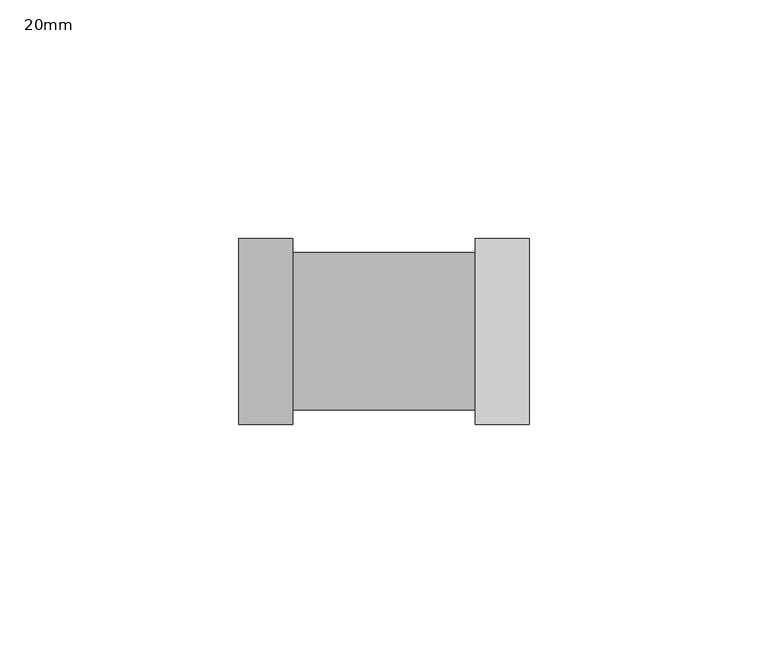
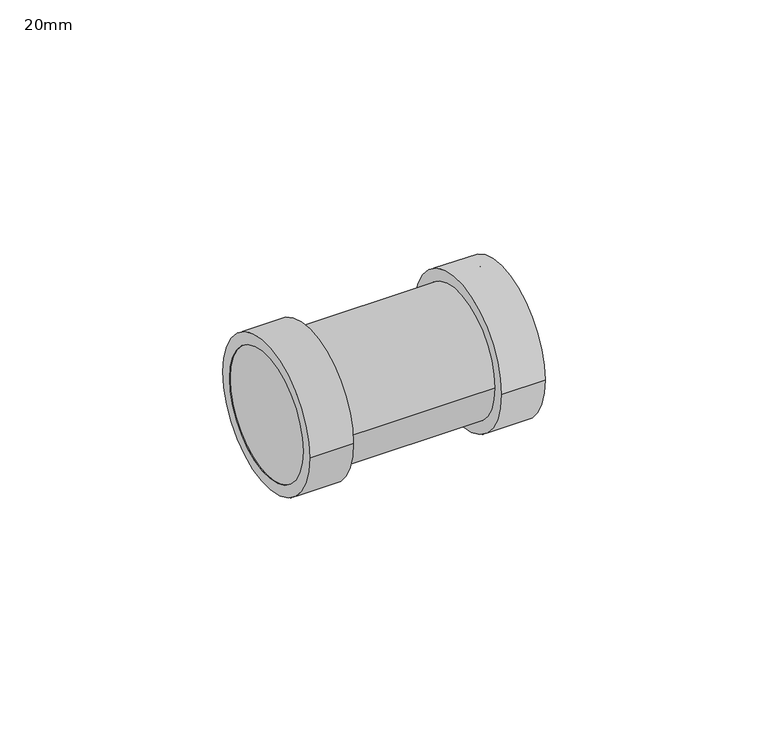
"""IFC4 building model written with IfcOpenShell, lengths in millimetres: pipe fitting geometry, PipeFitting_HTA_CPVC_StraightCouplingsThermocouples : 20mm."""

from ifc_helpers import new_model, si_unit, point, frame, origin, origin_2d, place, context, project, spatial, circle_curve, trimmed, segment, composite_curve, outline, extrude, source, transform, mapped, element, save


def pipe_fitting_20mm_8d208683(model_context):
    return source(origin(), model_context, "Body", "SweptSolid", [
        extrude(outline(composite_curve([segment(trimmed(circle_curve(origin_2d(), 19.5), [point((-19.5, 0.0))], [point((19.5, 0.0))], False, "CARTESIAN"), True, "CONTINUOUS"), segment(trimmed(circle_curve(origin_2d(), 19.5), [point((19.5, 0.0))], [point((-19.5, 0.0))], False, "CARTESIAN"), True, "CONTINUOUS")], self_intersect=False), holes=[composite_curve([segment(trimmed(circle_curve(origin_2d(), 16.5), [point((-16.5, 0.0))], [point((16.5, 0.0))], True, "CARTESIAN"), True, "CONTINUOUS"), segment(trimmed(circle_curve(origin_2d(), 16.5), [point((16.5, 0.0))], [point((-16.5, 0.0))], True, "CARTESIAN"), True, "CONTINUOUS")], self_intersect=False)]), frame((-30.5, 0.0, 0.0), z_axis=(1.0, 0.0, 0.0), x_axis=(0.0, 1.0, 0.0)), (0.0, 0.0, 1.0), 11.3333333),
        extrude(outline(composite_curve([segment(trimmed(circle_curve(origin_2d(), 19.5), [point((19.5, 0.0))], [point((-19.5, 0.0))], False, "CARTESIAN"), True, "CONTINUOUS"), segment(trimmed(circle_curve(origin_2d(), 19.5), [point((-19.5, 0.0))], [point((19.5, 0.0))], False, "CARTESIAN"), True, "CONTINUOUS")], self_intersect=False), holes=[composite_curve([segment(trimmed(circle_curve(origin_2d(), 16.5), [point((16.5, 0.0))], [point((-16.5, 0.0))], True, "CARTESIAN"), True, "CONTINUOUS"), segment(trimmed(circle_curve(origin_2d(), 16.5), [point((-16.5, 0.0))], [point((16.5, 0.0))], True, "CARTESIAN"), True, "CONTINUOUS")], self_intersect=False)]), frame((19.1666667, 0.0, 0.0), z_axis=(1.0, 0.0, 0.0), x_axis=(0.0, 1.0, 0.0)), (0.0, 0.0, 1.0), 11.3333333),
        extrude(outline(composite_curve([segment(trimmed(circle_curve(origin_2d(), 16.5), [point((-16.5, 0.0))], [point((16.5, 0.0))], False, "CARTESIAN"), True, "CONTINUOUS"), segment(trimmed(circle_curve(origin_2d(), 16.5), [point((16.5, 0.0))], [point((-16.5, 0.0))], False, "CARTESIAN"), True, "CONTINUOUS")], self_intersect=False)), frame((-30.5, 0.0, 0.0), z_axis=(1.0, 0.0, 0.0), x_axis=(0.0, 1.0, 0.0)), (0.0, 0.0, 1.0), 61.0),
    ])


if __name__ == "__main__":
    model = new_model("IFC4")
    model_context = context("Model", 3, world=origin())
    ifc_project = project(units=[si_unit("LENGTHUNIT", "METRE", prefix="MILLI")], contexts=[model_context])
    site = spatial("IfcSite", under=ifc_project)
    building = spatial("IfcBuilding", under=site)
    placement = place(None, origin())
    pipe_fitting_20mm_shape = pipe_fitting_20mm_8d208683(model_context)
    element("IfcPipeFitting", 1, ObjectType="PipeFitting_HTA_CPVC_StraightCouplingsThermocouples : 20mm", at=placement, inside=building, context=model_context, shape_type="MappedRepresentation", body=[
        mapped(pipe_fitting_20mm_shape, transform((0.0, 0.0, 0.0), x_axis=(1.0, 0.0, 0.0), y_axis=(0.0, 1.0, 0.0), z_axis=(0.0, 0.0, 1.0))),
    ])
    save(model, "model.ifc")
